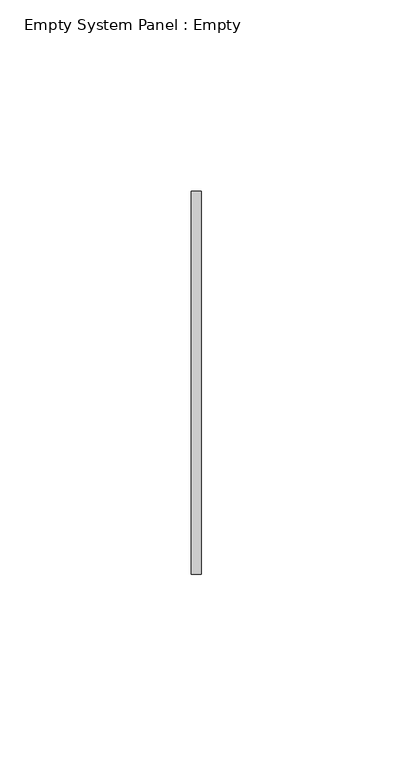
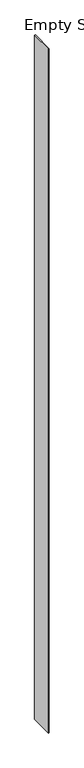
"""IFC4 building model written with IfcOpenShell, lengths in millimetres: plate geometry, Empty System Panel : Empty."""

import ifcopenshell
import ifcopenshell.guid

model = None  # the IFC model being written
_history = None  # IfcOwnerHistory: only IFC2X3 demands one
_inside = {}  # id of a spatial element -> (the spatial element, [elements in it])
_under = {}  # id of a project, library or spatial element -> (it, [spatial elements below it])
_declared = {}  # id of a project -> (the project, [libraries it declares])
_typed = {}  # id of a type object -> (the type object, [elements of that type])
_made_of = {}  # id of a material, layer set ... -> (it, [elements and type objects made of it])


def new_model(schema):
    """Start an empty IFC model of exactly this schema.

    Asked for "IFC4X3", IfcOpenShell would pick the latest addendum, in which some entities
    have other attributes; the version numbers below select the first issue.
    IFC2X3 requires an IfcOwnerHistory on every rooted entity: one is made here for all.
    """
    global model, _history
    if schema == "IFC4X3":
        model = ifcopenshell.file(schema_version=(4, 3, 0, 0))
    else:
        model = ifcopenshell.file(schema=schema)
    _inside.clear()
    _under.clear()
    _declared.clear()
    _typed.clear()
    _made_of.clear()
    _history = None
    if model.schema == "IFC2X3":
        org = make("IfcOrganization", Name="unknown")
        user = make(
            "IfcPersonAndOrganization",
            ThePerson=make("IfcPerson", FamilyName="unknown"),
            TheOrganization=org,
        )
        app = make(
            "IfcApplication",
            ApplicationDeveloper=org,
            Version="unknown",
            ApplicationFullName="unknown",
            ApplicationIdentifier="unknown",
        )
        _history = make(
            "IfcOwnerHistory",
            OwningUser=user,
            OwningApplication=app,
            ChangeAction="ADDED",
            CreationDate=0,
        )
    return model


def make(cls, **values):
    """One entity of the class cls with the attributes given. An attribute that is None is left unset."""
    return model.create_entity(
        cls, **{name: value for name, value in values.items() if value is not None}
    )


def rooted(cls, **values):
    """An entity with a GlobalId (a new one), such as an element, a storey or a relation."""
    return make(cls, GlobalId=ifcopenshell.guid.new(), OwnerHistory=_history, **values)


def si_unit(unit_type, name, prefix=None):
    """IfcSIUnit, for example si_unit("LENGTHUNIT", "METRE", prefix="MILLI")."""
    return make("IfcSIUnit", UnitType=unit_type, Prefix=prefix, Name=name)


def assignment(units):
    """IfcUnitAssignment: the units of a project."""
    return None if units is None else make("IfcUnitAssignment", Units=units)


def point(xyz):
    """IfcCartesianPoint."""
    return None if xyz is None else make("IfcCartesianPoint", Coordinates=xyz)


def direction(xyz):
    """IfcDirection."""
    return None if xyz is None else make("IfcDirection", DirectionRatios=xyz)


def frame(location, z_axis=None, x_axis=None):
    """IfcAxis2Placement3D, a coordinate frame: its origin and axes. An axis left out is left unset."""
    return make(
        "IfcAxis2Placement3D",
        Location=point(location),
        Axis=direction(z_axis),
        RefDirection=direction(x_axis),
    )


def origin():
    """The frame at (0, 0, 0) with its axes left unset."""
    return frame((0.0, 0.0, 0.0))


def origin_with_axes():
    """The frame at (0, 0, 0) with the z axis (0, 0, 1) and the x axis (1, 0, 0) written out."""
    return frame((0.0, 0.0, 0.0), z_axis=(0.0, 0.0, 1.0), x_axis=(1.0, 0.0, 0.0))


def place(relative_to, where):
    """IfcLocalPlacement: puts the frame where relative to a parent placement (None: the world)."""
    return make(
        "IfcLocalPlacement", PlacementRelTo=relative_to, RelativePlacement=where
    )


def context(
    kind, dimensions, precision=None, world=None, true_north=None, identifier=None
):
    """IfcGeometricRepresentationContext, for example the 3D "Model" context."""
    return make(
        "IfcGeometricRepresentationContext",
        ContextIdentifier=identifier,
        ContextType=kind,
        CoordinateSpaceDimension=dimensions,
        Precision=precision,
        WorldCoordinateSystem=world,
        TrueNorth=true_north,
    )


def project(units=None, contexts=None):
    """IfcProject with its units and contexts."""
    return rooted(
        "IfcProject",
        Name="project",
        RepresentationContexts=contexts,
        UnitsInContext=assignment(units),
    )


def spatial(cls, under=None, at=None, **own):
    """A site, building, storey or space (cls), placed at a placement, below another one or the project."""
    s = rooted(cls, ObjectPlacement=at, **own)
    if under is not None:
        _under.setdefault(under.id(), (under, []))[1].append(s)
    return s


def polyline(points):
    """IfcPolyline through the points."""
    return make("IfcPolyline", Points=[point(p) for p in points])


def outline(outer, holes=None, kind="AREA"):
    """IfcArbitraryClosedProfileDef: a profile drawn as a closed curve; with holes, ...WithVoids."""
    if holes is None:
        return make("IfcArbitraryClosedProfileDef", ProfileType=kind, OuterCurve=outer)
    return make(
        "IfcArbitraryProfileDefWithVoids",
        ProfileType=kind,
        OuterCurve=outer,
        InnerCurves=holes,
    )


def extrude(swept, where, along, depth):
    """IfcExtrudedAreaSolid: the profile swept, set in the frame where, extruded along a direction by depth."""
    return make(
        "IfcExtrudedAreaSolid",
        SweptArea=swept,
        Position=where,
        ExtrudedDirection=direction(along),
        Depth=depth,
    )


def shape(context_of_items, identifier, shape_type, items):
    """IfcShapeRepresentation: the items that make up one representation, for example the "Body"."""
    return make(
        "IfcShapeRepresentation",
        ContextOfItems=context_of_items,
        RepresentationIdentifier=identifier,
        RepresentationType=shape_type,
        Items=items,
    )


def source(mapping_origin, context_of_items, identifier, shape_type, items):
    """IfcRepresentationMap: a shape defined once, which mapped items show again and again."""
    return make(
        "IfcRepresentationMap",
        MappingOrigin=mapping_origin,
        MappedRepresentation=shape(context_of_items, identifier, shape_type, items),
    )


def transform(
    local_origin,
    x_axis=None,
    y_axis=None,
    z_axis=None,
    scale=None,
    scale2=None,
    scale3=None,
    uniform=True,
):
    """IfcCartesianTransformationOperator3D, or its non-uniform kind. x_axis, y_axis, z_axis: its Axis1, 2, 3."""
    if uniform:
        return make(
            "IfcCartesianTransformationOperator3D",
            Axis1=direction(x_axis),
            Axis2=direction(y_axis),
            LocalOrigin=point(local_origin),
            Scale=scale,
            Axis3=direction(z_axis),
        )
    return make(
        "IfcCartesianTransformationOperator3DnonUniform",
        Axis1=direction(x_axis),
        Axis2=direction(y_axis),
        LocalOrigin=point(local_origin),
        Scale=scale,
        Axis3=direction(z_axis),
        Scale2=scale2,
        Scale3=scale3,
    )


def mapped(mapping_source, mapping_target):
    """IfcMappedItem: shows the shape of a source again, moved by a transform."""
    return make(
        "IfcMappedItem", MappingSource=mapping_source, MappingTarget=mapping_target
    )


def made_of(thing, what):
    """Note that an element or type object is made of a material, layer set ...; save() writes the relation."""
    if what is not None:
        _made_of.setdefault(what.id(), (what, []))[1].append(thing)
    return thing


def element(
    cls,
    number,
    at=None,
    inside=None,
    cuts=None,
    type_object=None,
    material=None,
    context=None,
    identifier="Body",
    shape_type=None,
    held_by="IfcProductDefinitionShape",
    body=None,
    shapes=None,
    **own,
):
    """One element of the class cls, such as IfcWall. Its Tag is "e" and its number.

    at: its placement. inside: the storey or other place that contains it. cuts: it is an
    opening in that element (IfcRelVoidsElement). A single representation is given by context,
    identifier, shape_type and body (its items); several are given by shapes. held_by: the class
    of the entity that holds the representations. save() writes the other relations.
    """
    e = rooted(cls, Tag="e%d" % number, ObjectPlacement=at, **own)
    if body is not None:
        shapes = [shape(context, identifier, shape_type, body)]
    if shapes is not None:
        e.Representation = make(held_by, Representations=shapes)
    if inside is not None:
        _inside.setdefault(inside.id(), (inside, []))[1].append(e)
    if cuts is not None:
        rooted(
            "IfcRelVoidsElement", RelatingBuildingElement=cuts, RelatedOpeningElement=e
        )
    if type_object is not None:
        _typed.setdefault(type_object.id(), (type_object, []))[1].append(e)
    return made_of(e, material)


def aggregate(whole, parts):
    """IfcRelAggregates: a whole, such as a stair, and the parts it consists of."""
    return rooted("IfcRelAggregates", RelatingObject=whole, RelatedObjects=parts)


def save(model, path):
    """Write the relations noted so far, then the file.

    IfcRelAggregates (storeys below a building ...), IfcRelContainedInSpatialStructure (elements
    in a storey), IfcRelDefinesByType, IfcRelAssociatesMaterial and IfcRelDeclares: one each for
    every whole, place, type object, material and project.
    """
    for whole, parts in _under.values():
        aggregate(whole, parts)
    for where, things in _inside.values():
        rooted(
            "IfcRelContainedInSpatialStructure",
            RelatedElements=things,
            RelatingStructure=where,
        )
    for kind, things in _typed.values():
        rooted("IfcRelDefinesByType", RelatedObjects=things, RelatingType=kind)
    for what, things in _made_of.values():
        rooted("IfcRelAssociatesMaterial", RelatedObjects=things, RelatingMaterial=what)
    for by, libraries in _declared.values():
        rooted("IfcRelDeclares", RelatingContext=by, RelatedDefinitions=libraries)
    model.write(path)


def empty_system_panel_empty_27b459cb(model_context):
    return source(origin(), model_context, "Body", "SweptSolid", [
        extrude(outline(polyline([(1.258672, 50.0), (-1.258672, 50.0), (-1.258672, 150.0), (1.258672, 150.0), (1.258672, 50.0)])), origin_with_axes(), (0.0, 0.0, 1.0), 3000.0),
    ])


if __name__ == "__main__":
    model = new_model("IFC4")
    model_context = context("Model", 3, world=origin())
    ifc_project = project(units=[si_unit("LENGTHUNIT", "METRE", prefix="MILLI")], contexts=[model_context])
    site = spatial("IfcSite", under=ifc_project)
    building = spatial("IfcBuilding", under=site)
    placement = place(None, origin())
    empty_system_panel_empty_shape = empty_system_panel_empty_27b459cb(model_context)
    element("IfcPlate", 1, ObjectType="Empty System Panel : Empty", at=placement, inside=building, context=model_context, shape_type="MappedRepresentation", body=[
        mapped(empty_system_panel_empty_shape, transform((0.0, 0.0, 0.0), x_axis=(1.0, 0.0, 0.0), y_axis=(0.0, 1.0, 0.0), z_axis=(0.0, 0.0, 1.0))),
    ])
    save(model, "model.ifc")
